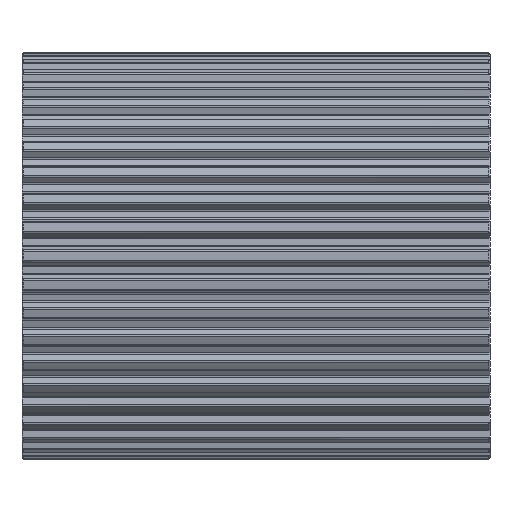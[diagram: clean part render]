
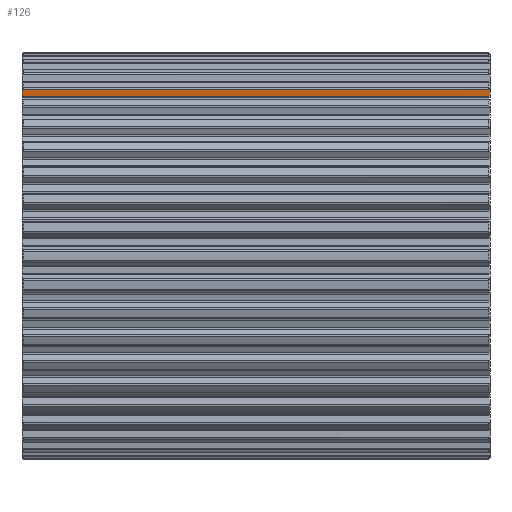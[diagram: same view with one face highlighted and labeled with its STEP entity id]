
A CAD part, front view. The second image highlights one B-rep face of the part: STEP entity #126.
In plain terms, the highlighted planar face has unit normal (0, -0.991, -0.135).
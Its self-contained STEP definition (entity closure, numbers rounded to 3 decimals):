
#126=ADVANCED_FACE('',(#665),#666,.T.);
#665=FACE_OUTER_BOUND('',#1583,.T.);
#666=PLANE('',#1584);
#1583=EDGE_LOOP('',(#2999,#3000,#3001,#3002,#3003,#3004));
#1584=AXIS2_PLACEMENT_3D('',#3005,#3006,#3007);
#2999=ORIENTED_EDGE('',*,*,#6664,.T.);
#3000=ORIENTED_EDGE('',*,*,#6790,.F.);
#3001=ORIENTED_EDGE('',*,*,#6791,.T.);
#3002=ORIENTED_EDGE('',*,*,#6792,.T.);
#3003=ORIENTED_EDGE('',*,*,#6793,.T.);
#3004=ORIENTED_EDGE('',*,*,#6788,.F.);
#3005=CARTESIAN_POINT('',(0.0,-38.917,55.788));
#3006=DIRECTION('',(0.,-0.991,-0.134));
#3007=DIRECTION('',(0.,0.134,-0.991));
#6664=EDGE_CURVE('',#8247,#8245,#8248,.T.);
#6788=EDGE_CURVE('',#8247,#8474,#8475,.T.);
#6790=EDGE_CURVE('',#8477,#8245,#8478,.T.);
#6791=EDGE_CURVE('',#8477,#8479,#8480,.T.);
#6792=EDGE_CURVE('',#8479,#8481,#8482,.T.);
#6793=EDGE_CURVE('',#8481,#8474,#8483,.T.);
#8245=VERTEX_POINT('',#11743);
#8247=VERTEX_POINT('',#11745);
#8248=(B_SPLINE_CURVE(2,(#11747,#11748,#11749),.UNSPECIFIED.,.F.,.F.)B_SPLINE_CURVE_WITH_KNOTS((3,3),(0.0,0.75),.UNSPECIFIED.)RATIONAL_B_SPLINE_CURVE((1.0,1.,1.0))BOUNDED_CURVE()REPRESENTATION_ITEM('')GEOMETRIC_REPRESENTATION_ITEM()CURVE());
#8474=VERTEX_POINT('',#12514);
#8475=LINE('',#12515,#12516);
#8477=VERTEX_POINT('',#12527);
#8478=LINE('',#12528,#12529);
#8479=VERTEX_POINT('',#12530);
#8480=LINE('',#12531,#12532);
#8481=VERTEX_POINT('',#12533);
#8482=LINE('',#12534,#12535);
#8483=(B_SPLINE_CURVE(2,(#12537,#12538,#12539),.UNSPECIFIED.,.F.,.F.)B_SPLINE_CURVE_WITH_KNOTS((3,3),(0.0,0.75),.UNSPECIFIED.)RATIONAL_B_SPLINE_CURVE((1.0,1.,1.0))BOUNDED_CURVE()REPRESENTATION_ITEM('')GEOMETRIC_REPRESENTATION_ITEM()CURVE());
#11743=CARTESIAN_POINT('',(0.,-39.069,56.91));
#11745=CARTESIAN_POINT('',(0.069,-39.079,56.987));
#11747=CARTESIAN_POINT('',(0.5,-39.144,57.464));
#11748=CARTESIAN_POINT('',(0.249,-39.107,57.186));
#11749=CARTESIAN_POINT('',(0.0,-39.069,56.91));
#12514=CARTESIAN_POINT('',(159.931,-39.079,56.987));
#12515=CARTESIAN_POINT('',(0.0,-39.079,56.987));
#12516=VECTOR('',#16410,1.0);
#12527=CARTESIAN_POINT('',(0.0,-38.754,54.59));
#12528=CARTESIAN_POINT('',(0.0,-38.754,54.59));
#12529=VECTOR('',#16411,1.);
#12530=CARTESIAN_POINT('',(160.0,-38.754,54.59));
#12531=CARTESIAN_POINT('',(0.0,-38.754,54.59));
#12532=VECTOR('',#16412,1.0);
#12533=CARTESIAN_POINT('',(160.0,-39.069,56.91));
#12534=CARTESIAN_POINT('',(160.0,-38.754,54.59));
#12535=VECTOR('',#16413,1.);
#12537=CARTESIAN_POINT('',(160.0,-39.069,56.91));
#12538=CARTESIAN_POINT('',(159.751,-39.107,57.186));
#12539=CARTESIAN_POINT('',(159.5,-39.144,57.464));
#16410=DIRECTION('',(1.0,0.,0.));
#16411=DIRECTION('',(0.,-0.134,0.991));
#16412=DIRECTION('',(1.0,0.,0.));
#16413=DIRECTION('',(0.,-0.134,0.991));
